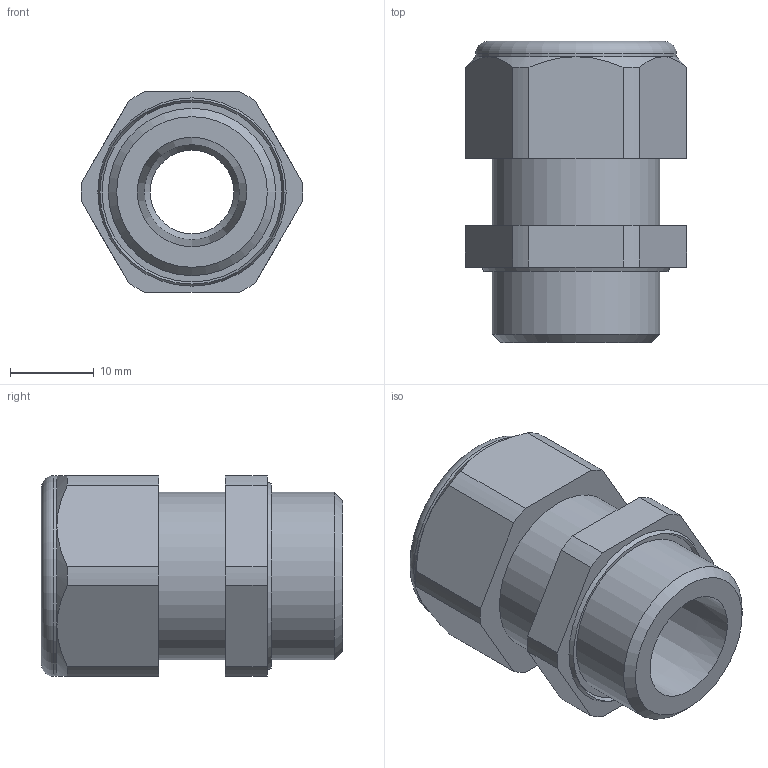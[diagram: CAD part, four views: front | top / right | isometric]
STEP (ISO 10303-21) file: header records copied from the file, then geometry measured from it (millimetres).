
FILE_DESCRIPTION(/* description */ ('STEP AP203'),/* implementation_level */ '2;1');
FILE_NAME(/* name */ 'P_MZ_Z_0677',/* time_stamp */ '2023-02-06T10:22:12+01:00',/* author */ ('License CC BY-ND 4.0'),/* organization */ ('CADENAS'),/* preprocessor_version */ 'ST-DEVELOPER v18.102',/* originating_system */ 'PARTsolutions',/* authorisation */ ' ');
FILE_SCHEMA (('CONFIG_CONTROL_DESIGN'));
Length unit declared in the file: millimetre
Products named in the file (1): P_MZ_Z_0677
Bounding box: 26.49 x 36 x 24 mm (x, y, z)
Volume: 10483.7 mm3; surface area: 5015.6 mm2
Topology: 1 solids, 1 shells, 47 faces, 110 edges, 69 vertices
Faces by surface type: plane 18, cylinder 16, cone 11, torus 2
Full cylindrical faces by diameter (mm): 10 x1, 20 x2, 24 x1
Entity records: 1342 total; most frequent: CARTESIAN_POINT 258, DIRECTION 228, ORIENTED_EDGE 198, EDGE_CURVE 99, AXIS2_PLACEMENT_3D 93, VERTEX_POINT 69, EDGE_LOOP 64, FACE_BOUND 64
